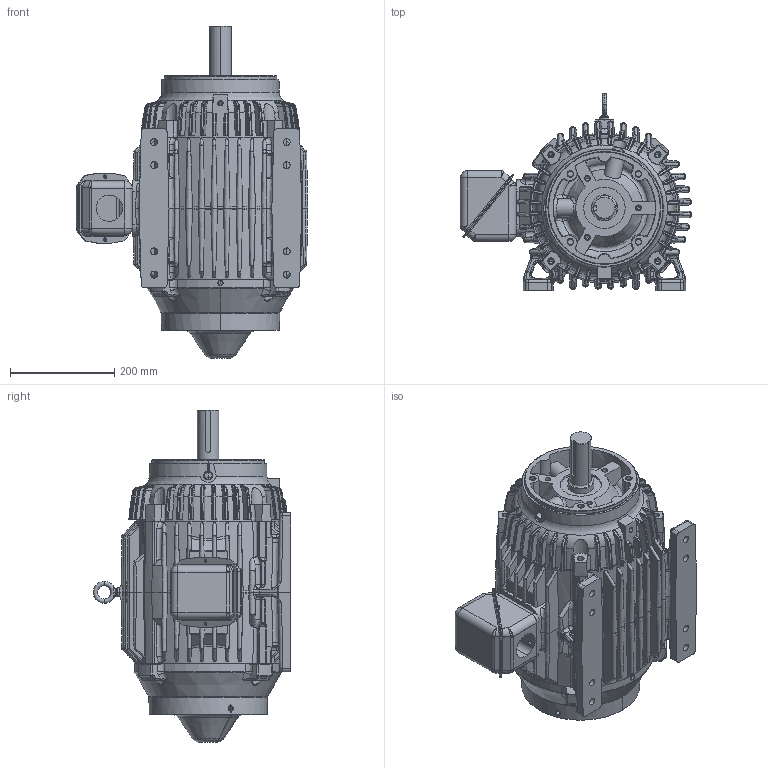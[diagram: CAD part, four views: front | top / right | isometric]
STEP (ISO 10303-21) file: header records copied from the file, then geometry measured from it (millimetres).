
FILE_DESCRIPTION((''),'2;1');
FILE_NAME('250_CFACE_TENV_INVERTER_ASM','2018-09-27T13:43:10',('emd2341'),('Nidec Motor Corporation'),'CREO PARAMETRIC BY PTC INC, 2018020','CREO PARAMETRIC BY PTC INC, 2018020','');
FILE_SCHEMA(('CONFIG_CONTROL_DESIGN'));
Products named in the file (12): 0929916; 0998662; 0165369; 0183520; 2033450; 0142461; 0133167; 0378700; 0378701; 2033631; 0622701; 250_CFACE_TENV_INVERTER_ASM
Assembly tree (11 placements, depth 2):
  250_CFACE_TENV_INVERTER_ASM
    0929916
    0998662
    0165369
    0183520
    2033450
    0142461
    0133167
    0378700
    0378701
    2033631
    0622701
Bounding box: 443.34 x 378.65 x 636.3 mm (x, y, z)
Volume: 10404274.2 mm3; surface area: 2138986.9 mm2
Topology: 15 solids, 46 shells, 3263 faces, 8040 edges, 4834 vertices
Faces by surface type: bspline 1133, plane 664, cylinder 637, torus 336, cone 295, extrusion 116, sphere 82
Entity records: 143819 total; most frequent: CARTESIAN_POINT 77170, ORIENTED_EDGE 15852, DIRECTION 10672, EDGE_CURVE 7984, VERTEX_POINT 4834, AXIS2_PLACEMENT_3D 4450, B_SPLINE_CURVE_WITH_KNOTS 4041, EDGE_LOOP 3458
